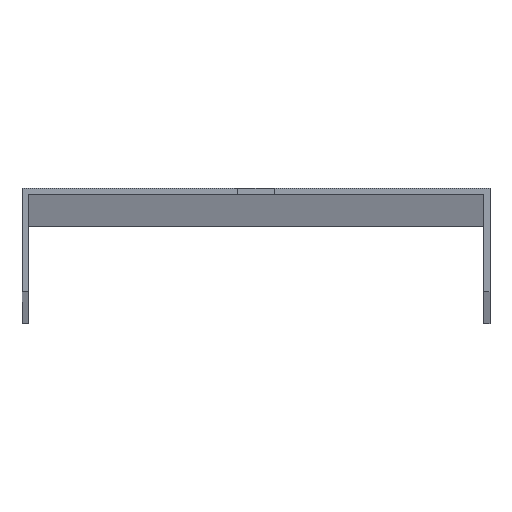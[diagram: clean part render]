
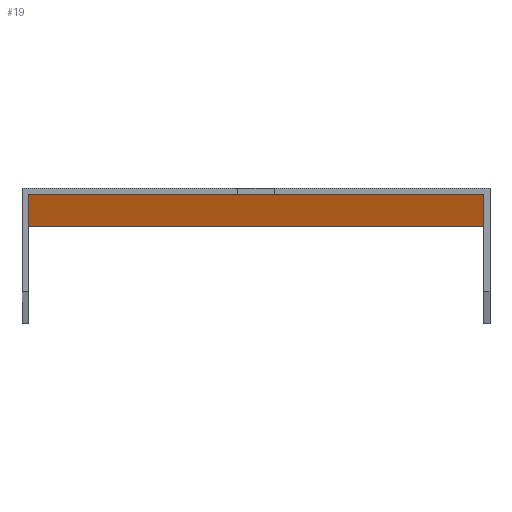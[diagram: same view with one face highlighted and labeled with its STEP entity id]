
A CAD part, top view. The second image highlights one B-rep face of the part: STEP entity #19.
In plain terms, the highlighted planar face has unit normal (0, -1, 0).
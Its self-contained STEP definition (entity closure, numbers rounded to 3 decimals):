
#16 = EDGE_CURVE ( 'NONE', #227, #253, #243, .T. ) ;
#19 = ADVANCED_FACE ( 'NONE', ( #62, #285, #383 ), #422, .T. ) ;
#20 = DIRECTION ( 'NONE',  ( 0., 0., -1. ) ) ;
#24 = CARTESIAN_POINT ( 'NONE',  ( 3., -1., -1481.5 ) ) ;
#32 = CARTESIAN_POINT ( 'NONE',  ( -3., -1., 1500. ) ) ;
#33 = VERTEX_POINT ( 'NONE', #468 ) ;
#35 = DIRECTION ( 'NONE',  ( 1., 0., 0. ) ) ;
#36 = EDGE_LOOP ( 'NONE', ( #134, #354, #343, #99 ) ) ;
#40 = LINE ( 'NONE', #187, #438 ) ;
#45 = EDGE_LOOP ( 'NONE', ( #447, #462, #433, #271 ) ) ;
#46 = CARTESIAN_POINT ( 'NONE',  ( -3., -1., -1488.5 ) ) ;
#53 = CARTESIAN_POINT ( 'NONE',  ( 3., -1., 1488.5 ) ) ;
#58 = VECTOR ( 'NONE', #457, 1000. ) ;
#62 = FACE_BOUND ( 'NONE', #36, .T. ) ;
#77 = EDGE_CURVE ( 'NONE', #229, #436, #435, .T. ) ;
#84 = LINE ( 'NONE', #356, #516 ) ;
#88 = VERTEX_POINT ( 'NONE', #24 ) ;
#97 = CARTESIAN_POINT ( 'NONE',  ( -3., -1., -1481.5 ) ) ;
#99 = ORIENTED_EDGE ( 'NONE', *, *, #125, .F. ) ;
#109 = EDGE_CURVE ( 'NONE', #144, #191, #117, .T. ) ;
#110 = DIRECTION ( 'NONE',  ( -1., 0., 0. ) ) ;
#114 = AXIS2_PLACEMENT_3D ( 'NONE', #425, #282, #20 ) ;
#117 = LINE ( 'NONE', #218, #265 ) ;
#125 = EDGE_CURVE ( 'NONE', #436, #311, #391, .T. ) ;
#129 = EDGE_CURVE ( 'NONE', #253, #88, #353, .T. ) ;
#130 = VECTOR ( 'NONE', #258, 1000. ) ;
#133 = LINE ( 'NONE', #543, #272 ) ;
#134 = ORIENTED_EDGE ( 'NONE', *, *, #77, .F. ) ;
#144 = VERTEX_POINT ( 'NONE', #577 ) ;
#145 = VECTOR ( 'NONE', #236, 1000. ) ;
#164 = LINE ( 'NONE', #302, #506 ) ;
#170 = CARTESIAN_POINT ( 'NONE',  ( 3., -1., -1488.5 ) ) ;
#172 = EDGE_CURVE ( 'NONE', #544, #227, #164, .T. ) ;
#178 = VECTOR ( 'NONE', #249, 1000. ) ;
#184 = CARTESIAN_POINT ( 'NONE',  ( -3., -1., 1488.5 ) ) ;
#187 = CARTESIAN_POINT ( 'NONE',  ( 3., -1., 1500. ) ) ;
#191 = VERTEX_POINT ( 'NONE', #480 ) ;
#201 = CARTESIAN_POINT ( 'NONE',  ( -3., -1., 1481.5 ) ) ;
#202 = CARTESIAN_POINT ( 'NONE',  ( -3., -1., 1500. ) ) ;
#215 = CARTESIAN_POINT ( 'NONE',  ( -38.5, -1., -1481.5 ) ) ;
#218 = CARTESIAN_POINT ( 'NONE',  ( -38.5, -1., 1500. ) ) ;
#226 = CARTESIAN_POINT ( 'NONE',  ( -37.5, -1., 1500. ) ) ;
#227 = VERTEX_POINT ( 'NONE', #46 ) ;
#229 = VERTEX_POINT ( 'NONE', #184 ) ;
#234 = ORIENTED_EDGE ( 'NONE', *, *, #568, .F. ) ;
#236 = DIRECTION ( 'NONE',  ( 0., 0., 1. ) ) ;
#243 = LINE ( 'NONE', #202, #145 ) ;
#246 = EDGE_CURVE ( 'NONE', #144, #33, #133, .T. ) ;
#249 = DIRECTION ( 'NONE',  ( -1., 0., 0. ) ) ;
#250 = DIRECTION ( 'NONE',  ( -1., 0., 0. ) ) ;
#253 = VERTEX_POINT ( 'NONE', #97 ) ;
#258 = DIRECTION ( 'NONE',  ( 1., 0., 0. ) ) ;
#264 = ORIENTED_EDGE ( 'NONE', *, *, #246, .F. ) ;
#265 = VECTOR ( 'NONE', #394, 1000. ) ;
#270 = LINE ( 'NONE', #226, #58 ) ;
#271 = ORIENTED_EDGE ( 'NONE', *, *, #286, .T. ) ;
#272 = VECTOR ( 'NONE', #316, 1000. ) ;
#282 = DIRECTION ( 'NONE',  ( 0., -1., 0. ) ) ;
#284 = CARTESIAN_POINT ( 'NONE',  ( -37.5, -1., -1500. ) ) ;
#285 = FACE_OUTER_BOUND ( 'NONE', #475, .T. ) ;
#286 = EDGE_CURVE ( 'NONE', #88, #544, #40, .T. ) ;
#295 = LINE ( 'NONE', #352, #178 ) ;
#302 = CARTESIAN_POINT ( 'NONE',  ( -38.5, -1., -1488.5 ) ) ;
#311 = VERTEX_POINT ( 'NONE', #540 ) ;
#316 = DIRECTION ( 'NONE',  ( 0., 0., -1. ) ) ;
#321 = DIRECTION ( 'NONE',  ( 0., 0., 1. ) ) ;
#332 = CARTESIAN_POINT ( 'NONE',  ( -38.5, -1., 1488.5 ) ) ;
#334 = EDGE_CURVE ( 'NONE', #191, #450, #270, .T. ) ;
#343 = ORIENTED_EDGE ( 'NONE', *, *, #355, .F. ) ;
#346 = ORIENTED_EDGE ( 'NONE', *, *, #109, .T. ) ;
#348 = DIRECTION ( 'NONE',  ( 0., 0., -1. ) ) ;
#352 = CARTESIAN_POINT ( 'NONE',  ( -38.5, -1., -1500. ) ) ;
#353 = LINE ( 'NONE', #215, #449 ) ;
#354 = ORIENTED_EDGE ( 'NONE', *, *, #478, .F. ) ;
#355 = EDGE_CURVE ( 'NONE', #311, #408, #84, .T. ) ;
#356 = CARTESIAN_POINT ( 'NONE',  ( 3., -1., 1500. ) ) ;
#372 = VECTOR ( 'NONE', #348, 1000. ) ;
#383 = FACE_BOUND ( 'NONE', #45, .T. ) ;
#391 = LINE ( 'NONE', #487, #130 ) ;
#394 = DIRECTION ( 'NONE',  ( -1., 0., 0. ) ) ;
#408 = VERTEX_POINT ( 'NONE', #53 ) ;
#422 = PLANE ( 'NONE',  #114 ) ;
#425 = CARTESIAN_POINT ( 'NONE',  ( -38.5, -1., 1500. ) ) ;
#433 = ORIENTED_EDGE ( 'NONE', *, *, #129, .T. ) ;
#435 = LINE ( 'NONE', #32, #372 ) ;
#436 = VERTEX_POINT ( 'NONE', #201 ) ;
#438 = VECTOR ( 'NONE', #545, 1000. ) ;
#441 = ORIENTED_EDGE ( 'NONE', *, *, #334, .T. ) ;
#447 = ORIENTED_EDGE ( 'NONE', *, *, #172, .T. ) ;
#449 = VECTOR ( 'NONE', #35, 1000. ) ;
#450 = VERTEX_POINT ( 'NONE', #284 ) ;
#457 = DIRECTION ( 'NONE',  ( 0., 0., -1. ) ) ;
#462 = ORIENTED_EDGE ( 'NONE', *, *, #16, .T. ) ;
#468 = CARTESIAN_POINT ( 'NONE',  ( 37.5, -1., -1500. ) ) ;
#475 = EDGE_LOOP ( 'NONE', ( #234, #264, #346, #441 ) ) ;
#478 = EDGE_CURVE ( 'NONE', #408, #229, #517, .T. ) ;
#480 = CARTESIAN_POINT ( 'NONE',  ( -37.5, -1., 1500. ) ) ;
#487 = CARTESIAN_POINT ( 'NONE',  ( -38.5, -1., 1481.5 ) ) ;
#506 = VECTOR ( 'NONE', #250, 1000. ) ;
#516 = VECTOR ( 'NONE', #321, 1000. ) ;
#517 = LINE ( 'NONE', #332, #526 ) ;
#526 = VECTOR ( 'NONE', #110, 1000. ) ;
#540 = CARTESIAN_POINT ( 'NONE',  ( 3., -1., 1481.5 ) ) ;
#543 = CARTESIAN_POINT ( 'NONE',  ( 37.5, -1., 1500. ) ) ;
#544 = VERTEX_POINT ( 'NONE', #170 ) ;
#545 = DIRECTION ( 'NONE',  ( 0., 0., -1. ) ) ;
#568 = EDGE_CURVE ( 'NONE', #33, #450, #295, .T. ) ;
#577 = CARTESIAN_POINT ( 'NONE',  ( 37.5, -1., 1500. ) ) ;
